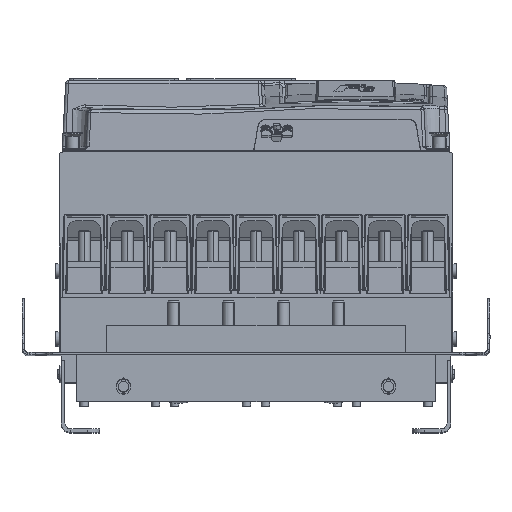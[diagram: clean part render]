
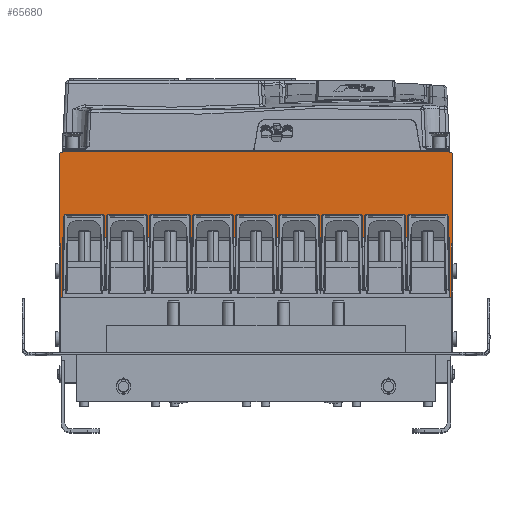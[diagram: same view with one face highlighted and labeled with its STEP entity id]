
A CAD part, top view. The second image highlights one B-rep face of the part: STEP entity #65680.
In plain terms, the highlighted planar face has unit normal (0, 0, 1).
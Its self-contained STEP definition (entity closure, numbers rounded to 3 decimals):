
#1102 = LINE ( 'NONE', #36105, #49083 ) ;
#4442 = AXIS2_PLACEMENT_3D ( 'NONE', #109524, #65919, #22308 ) ;
#6143 = ORIENTED_EDGE ( 'NONE', *, *, #18234, .F. ) ;
#6178 = LINE ( 'NONE', #75597, #92995 ) ;
#7885 = DIRECTION ( 'NONE',  ( 1., 0., 0. ) ) ;
#9689 = EDGE_CURVE ( 'NONE', #31805, #47178, #22065, .T. ) ;
#10564 = LINE ( 'NONE', #59532, #102200 ) ;
#12585 = CARTESIAN_POINT ( 'NONE',  ( 165., -3.5, 453. ) ) ;
#12892 = DIRECTION ( 'NONE',  ( 0., -1., 0. ) ) ;
#15260 = DIRECTION ( 'NONE',  ( 0., 0., -1. ) ) ;
#15694 = LINE ( 'NONE', #12585, #62368 ) ;
#16458 = EDGE_CURVE ( 'NONE', #38867, #35563, #69971, .T. ) ;
#16495 = EDGE_CURVE ( 'NONE', #41439, #31805, #1102, .T. ) ;
#18234 = EDGE_CURVE ( 'NONE', #108889, #75201, #100881, .T. ) ;
#18950 = LINE ( 'NONE', #91229, #108984 ) ;
#21711 = ORIENTED_EDGE ( 'NONE', *, *, #23812, .T. ) ;
#22065 = LINE ( 'NONE', #90962, #34641 ) ;
#22308 = DIRECTION ( 'NONE',  ( 0., 1., 0. ) ) ;
#22492 = VERTEX_POINT ( 'NONE', #58034 ) ;
#23418 = ORIENTED_EDGE ( 'NONE', *, *, #16495, .F. ) ;
#23812 = EDGE_CURVE ( 'NONE', #108889, #49032, #18950, .T. ) ;
#25785 = DIRECTION ( 'NONE',  ( 0., 1., 0. ) ) ;
#25835 = CARTESIAN_POINT ( 'NONE',  ( 165., -77., 453. ) ) ;
#26913 = FACE_OUTER_BOUND ( 'NONE', #68440, .T. ) ;
#31805 = VERTEX_POINT ( 'NONE', #100942 ) ;
#32033 = CARTESIAN_POINT ( 'NONE',  ( 0., -167.9, 453. ) ) ;
#34371 = DIRECTION ( 'NONE',  ( 0., 0., -1. ) ) ;
#34641 = VECTOR ( 'NONE', #12892, 1000. ) ;
#35563 = VERTEX_POINT ( 'NONE', #43804 ) ;
#36105 = CARTESIAN_POINT ( 'NONE',  ( 165.001, -77., 453. ) ) ;
#38217 = AXIS2_PLACEMENT_3D ( 'NONE', #53297, #34371, #25785 ) ;
#38867 = VERTEX_POINT ( 'NONE', #70208 ) ;
#40803 = ORIENTED_EDGE ( 'NONE', *, *, #53992, .T. ) ;
#41439 = VERTEX_POINT ( 'NONE', #25835 ) ;
#43804 = CARTESIAN_POINT ( 'NONE',  ( -163.5, -77., 453. ) ) ;
#43850 = EDGE_CURVE ( 'NONE', #47178, #38867, #94575, .T. ) ;
#45273 = VECTOR ( 'NONE', #110078, 1000. ) ;
#46843 = EDGE_CURVE ( 'NONE', #41439, #111281, #15694, .T. ) ;
#47178 = VERTEX_POINT ( 'NONE', #53254 ) ;
#49007 = VECTOR ( 'NONE', #104421, 1000. ) ;
#49032 = VERTEX_POINT ( 'NONE', #50733 ) ;
#49083 = VECTOR ( 'NONE', #62504, 1000. ) ;
#49545 = ORIENTED_EDGE ( 'NONE', *, *, #46843, .T. ) ;
#50469 = EDGE_CURVE ( 'NONE', #22492, #111281, #75865, .T. ) ;
#50733 = CARTESIAN_POINT ( 'NONE',  ( -165., -77., 453. ) ) ;
#52639 = CARTESIAN_POINT ( 'NONE',  ( 165., -3.5, 453. ) ) ;
#53226 = AXIS2_PLACEMENT_3D ( 'NONE', #93302, #15260, #58299 ) ;
#53254 = CARTESIAN_POINT ( 'NONE',  ( 163.5, -167.9, 453. ) ) ;
#53297 = CARTESIAN_POINT ( 'NONE',  ( 0., 0., 453. ) ) ;
#53975 = DIRECTION ( 'NONE',  ( 0., -1., 0. ) ) ;
#53992 = EDGE_CURVE ( 'NONE', #49032, #35563, #10564, .T. ) ;
#54472 = CARTESIAN_POINT ( 'NONE',  ( -163.5, 0., 453. ) ) ;
#55658 = DIRECTION ( 'NONE',  ( 0., 1., 0. ) ) ;
#58034 = CARTESIAN_POINT ( 'NONE',  ( 161.5, 0., 453. ) ) ;
#58188 = ORIENTED_EDGE ( 'NONE', *, *, #43850, .F. ) ;
#58299 = DIRECTION ( 'NONE',  ( 0., 1., 0. ) ) ;
#59532 = CARTESIAN_POINT ( 'NONE',  ( -165.001, -77., 453. ) ) ;
#62368 = VECTOR ( 'NONE', #55658, 1000. ) ;
#62504 = DIRECTION ( 'NONE',  ( -1., 0., 0. ) ) ;
#65680 = ADVANCED_FACE ( 'NONE', ( #26913 ), #112428, .F. ) ;
#65919 = DIRECTION ( 'NONE',  ( 0., 0., -1. ) ) ;
#68440 = EDGE_LOOP ( 'NONE', ( #6143, #21711, #40803, #100307, #58188, #80110, #23418, #49545, #87222, #98861 ) ) ;
#69971 = LINE ( 'NONE', #54472, #49007 ) ;
#70208 = CARTESIAN_POINT ( 'NONE',  ( -163.5, -167.9, 453. ) ) ;
#75201 = VERTEX_POINT ( 'NONE', #91026 ) ;
#75597 = CARTESIAN_POINT ( 'NONE',  ( 0., 0., 453. ) ) ;
#75865 = CIRCLE ( 'NONE', #4442, 3.5 ) ;
#80110 = ORIENTED_EDGE ( 'NONE', *, *, #9689, .F. ) ;
#84230 = DIRECTION ( 'NONE',  ( 1., 0., 0. ) ) ;
#87222 = ORIENTED_EDGE ( 'NONE', *, *, #50469, .F. ) ;
#88182 = CARTESIAN_POINT ( 'NONE',  ( -165., -3.5, 453. ) ) ;
#90962 = CARTESIAN_POINT ( 'NONE',  ( 163.5, 0., 453. ) ) ;
#91026 = CARTESIAN_POINT ( 'NONE',  ( -161.5, 0., 453. ) ) ;
#91229 = CARTESIAN_POINT ( 'NONE',  ( -165., -3.5, 453. ) ) ;
#92995 = VECTOR ( 'NONE', #84230, 1000. ) ;
#93302 = CARTESIAN_POINT ( 'NONE',  ( -161.5, -3.5, 453. ) ) ;
#94575 = LINE ( 'NONE', #32033, #45273 ) ;
#96660 = EDGE_CURVE ( 'NONE', #75201, #22492, #6178, .T. ) ;
#98861 = ORIENTED_EDGE ( 'NONE', *, *, #96660, .F. ) ;
#100307 = ORIENTED_EDGE ( 'NONE', *, *, #16458, .F. ) ;
#100881 = CIRCLE ( 'NONE', #53226, 3.5 ) ;
#100942 = CARTESIAN_POINT ( 'NONE',  ( 163.5, -77., 453. ) ) ;
#102200 = VECTOR ( 'NONE', #7885, 1000. ) ;
#104421 = DIRECTION ( 'NONE',  ( 0., 1., 0. ) ) ;
#108889 = VERTEX_POINT ( 'NONE', #88182 ) ;
#108984 = VECTOR ( 'NONE', #53975, 1000. ) ;
#109524 = CARTESIAN_POINT ( 'NONE',  ( 161.5, -3.5, 453. ) ) ;
#110078 = DIRECTION ( 'NONE',  ( -1., 0., 0. ) ) ;
#111281 = VERTEX_POINT ( 'NONE', #52639 ) ;
#112428 = PLANE ( 'NONE',  #38217 ) ;
